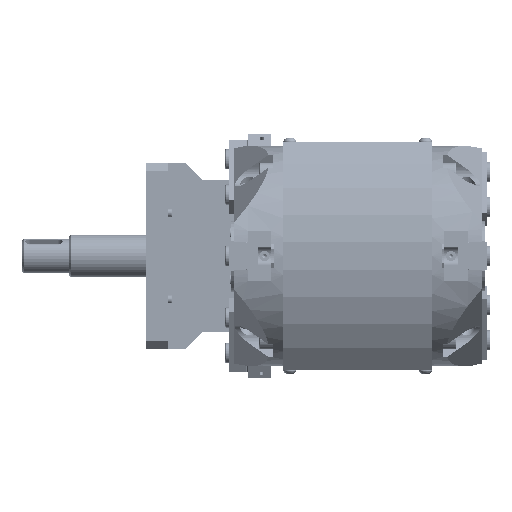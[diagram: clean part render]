
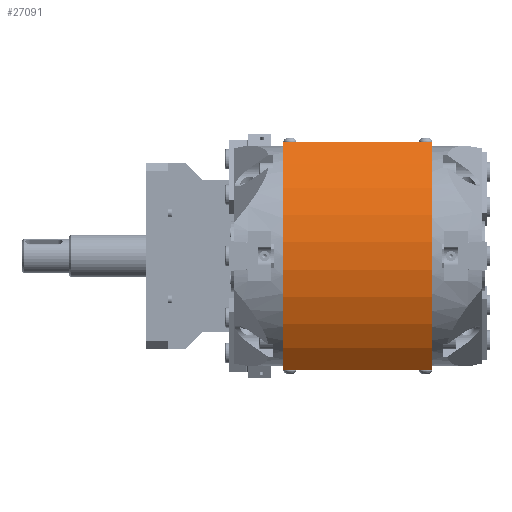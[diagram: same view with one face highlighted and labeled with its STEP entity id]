
A CAD part, left-side view. The second image highlights one B-rep face of the part: STEP entity #27091.
In plain terms, the highlighted cylindrical face has radius 100 mm (diameter 200 mm), a partial arc.
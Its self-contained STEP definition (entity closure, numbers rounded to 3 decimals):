
#3328 = AXIS2_PLACEMENT_3D ( 'NONE', #5870, #5862, #5865 ) ;
#5862 = DIRECTION ( 'NONE',  ( 0., -1., 0. ) ) ;
#5865 = DIRECTION ( 'NONE',  ( 0., 0., -1. ) ) ;
#5870 = CARTESIAN_POINT ( 'NONE',  ( 35., 44., 0. ) ) ;
#6942 = CYLINDRICAL_SURFACE ( 'NONE', #3328, 100. ) ;
#6943 = FACE_OUTER_BOUND ( 'NONE', #48805, .T. ) ;
#14225 = CARTESIAN_POINT ( 'NONE',  ( -38.782, -44., 67.5 ) ) ;
#14226 = CARTESIAN_POINT ( 'NONE',  ( -38.782, -44., -67.5 ) ) ;
#14243 = CARTESIAN_POINT ( 'NONE',  ( -38.782, 44., -67.5 ) ) ;
#14244 = CARTESIAN_POINT ( 'NONE',  ( -38.782, 44., 67.5 ) ) ;
#17622 = AXIS2_PLACEMENT_3D ( 'NONE', #20090, #20091, #20092 ) ;
#19467 = CIRCLE ( 'NONE', #17622, 100. ) ;
#20090 = CARTESIAN_POINT ( 'NONE',  ( 35., -44., 0. ) ) ;
#20091 = DIRECTION ( 'NONE',  ( 0., 1., 0. ) ) ;
#20092 = DIRECTION ( 'NONE',  ( 0., 0., 1. ) ) ;
#27091 = ADVANCED_FACE ( 'NONE', ( #6943 ), #6942, .T. ) ;
#28174 = AXIS2_PLACEMENT_3D ( 'NONE', #30221, #31385, #31386 ) ;
#30221 = CARTESIAN_POINT ( 'NONE',  ( 35., 44., 0. ) ) ;
#30965 = LINE ( 'NONE', #31387, #30968 ) ;
#30968 = VECTOR ( 'NONE', #31388, 1000. ) ;
#30974 = LINE ( 'NONE', #31382, #30975 ) ;
#30975 = VECTOR ( 'NONE', #31383, 1000. ) ;
#30977 = CIRCLE ( 'NONE', #28174, 100. ) ;
#31382 = CARTESIAN_POINT ( 'NONE',  ( -38.782, 44., -67.5 ) ) ;
#31383 = DIRECTION ( 'NONE',  ( 0., -1., 0. ) ) ;
#31385 = DIRECTION ( 'NONE',  ( 0., 1., 0. ) ) ;
#31386 = DIRECTION ( 'NONE',  ( 0., 0., 1. ) ) ;
#31387 = CARTESIAN_POINT ( 'NONE',  ( -38.782, 44., 67.5 ) ) ;
#31388 = DIRECTION ( 'NONE',  ( 0., -1., 0. ) ) ;
#48805 = EDGE_LOOP ( 'NONE', ( #55905, #55906, #55907, #55908 ) ) ;
#50950 = VERTEX_POINT ( 'NONE', #14225 ) ;
#50951 = VERTEX_POINT ( 'NONE', #14226 ) ;
#50968 = VERTEX_POINT ( 'NONE', #14243 ) ;
#50969 = VERTEX_POINT ( 'NONE', #14244 ) ;
#55905 = ORIENTED_EDGE ( 'NONE', *, *, #59026, .T. ) ;
#55906 = ORIENTED_EDGE ( 'NONE', *, *, #57228, .T. ) ;
#55907 = ORIENTED_EDGE ( 'NONE', *, *, #59028, .F. ) ;
#55908 = ORIENTED_EDGE ( 'NONE', *, *, #59027, .F. ) ;
#57228 = EDGE_CURVE ( 'NONE', #50951, #50950, #19467, .T. ) ;
#59026 = EDGE_CURVE ( 'NONE', #50968, #50951, #30974, .T. ) ;
#59027 = EDGE_CURVE ( 'NONE', #50968, #50969, #30977, .T. ) ;
#59028 = EDGE_CURVE ( 'NONE', #50969, #50950, #30965, .T. ) ;
